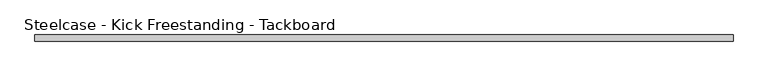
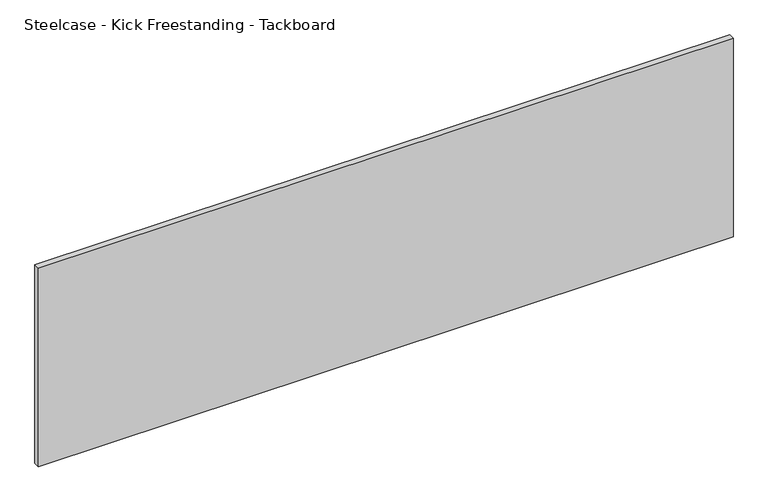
"""IFC4 building model written with IfcOpenShell, lengths in millimetres: furniture geometry, Steelcase - Kick Freestanding - Tackboard : 66W x 19H."""

from ifc_helpers import new_model, si_unit, frame, origin, place, context, project, spatial, polyline, outline, extrude, source, transform, mapped, element, save


def steelcase_kick_freestanding_tackboard_4cfa24d6(model_context):
    return source(origin(), model_context, "Body", "SweptSolid", [
        extrude(outline(polyline([(38.1, -48.89754), (38.1, -34.92754), (1638.3, -34.92754), (1638.3, -48.89754), (38.1, -48.89754)])), frame((0.0, 0.0, 723.9), z_axis=(0.0, 0.0, 1.0), x_axis=(1.0, 0.0, 0.0)), (0.0, 0.0, 1.0), 482.6),
    ])


if __name__ == "__main__":
    model = new_model("IFC4")
    model_context = context("Model", 3, world=origin())
    ifc_project = project(units=[si_unit("LENGTHUNIT", "METRE", prefix="MILLI")], contexts=[model_context])
    site = spatial("IfcSite", under=ifc_project)
    building = spatial("IfcBuilding", under=site)
    placement = place(None, origin())
    steelcase_kick_freestanding_tackboard_shape = steelcase_kick_freestanding_tackboard_4cfa24d6(model_context)
    element("IfcFurniture", 1, ObjectType="Steelcase - Kick Freestanding - Tackboard : 66W x 19H", at=placement, inside=building, context=model_context, shape_type="MappedRepresentation", body=[
        mapped(steelcase_kick_freestanding_tackboard_shape, transform((0.0, 0.0, 0.0), x_axis=(1.0, 0.0, 0.0), y_axis=(0.0, 1.0, 0.0), z_axis=(0.0, 0.0, 1.0))),
    ])
    save(model, "model.ifc")
